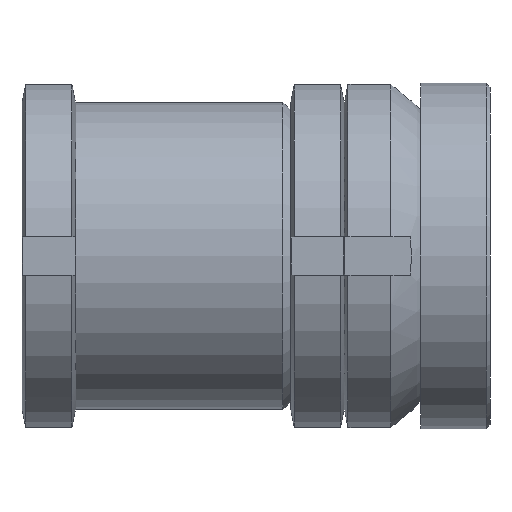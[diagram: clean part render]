
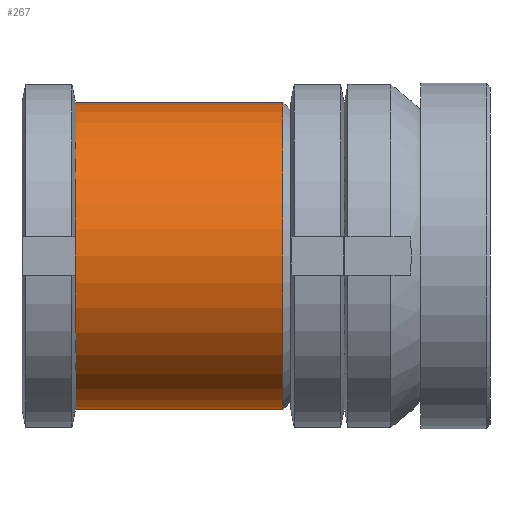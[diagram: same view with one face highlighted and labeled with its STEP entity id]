
A CAD part, front view. The second image highlights one B-rep face of the part: STEP entity #267.
In plain terms, the highlighted cylindrical face has radius 20 mm (diameter 40 mm), a full revolution.
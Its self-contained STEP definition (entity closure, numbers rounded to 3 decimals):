
#267 = ADVANCED_FACE( '', ( #386, #387 ), #388, .T. );
#386 = FACE_OUTER_BOUND( '', #594, .T. );
#387 = FACE_OUTER_BOUND( '', #595, .T. );
#388 = CYLINDRICAL_SURFACE( '', #596, 20. );
#594 = EDGE_LOOP( '', ( #927 ) );
#595 = EDGE_LOOP( '', ( #928 ) );
#596 = AXIS2_PLACEMENT_3D( '', #929, #930, #931 );
#927 = ORIENTED_EDGE( '', *, *, #1375, .F. );
#928 = ORIENTED_EDGE( '', *, *, #1409, .T. );
#929 = CARTESIAN_POINT( '', ( 0., 0., 0. ) );
#930 = DIRECTION( '', ( 0., 1., 0. ) );
#931 = DIRECTION( '', ( 0., 0., -1. ) );
#1375 = EDGE_CURVE( '', #1571, #1571, #1572, .T. );
#1409 = EDGE_CURVE( '', #1624, #1624, #1625, .T. );
#1571 = VERTEX_POINT( '', #1947 );
#1572 = CIRCLE( '', #1948, 20. );
#1624 = VERTEX_POINT( '', #2068 );
#1625 = CIRCLE( '', #2069, 20. );
#1947 = CARTESIAN_POINT( '', ( 0., 7., -20. ) );
#1948 = AXIS2_PLACEMENT_3D( '', #2512, #2513, #2514 );
#2068 = CARTESIAN_POINT( '', ( 0., 34., -20. ) );
#2069 = AXIS2_PLACEMENT_3D( '', #2553, #2554, #2555 );
#2512 = CARTESIAN_POINT( '', ( 0., 7., 0. ) );
#2513 = DIRECTION( '', ( 0., -1., 0. ) );
#2514 = DIRECTION( '', ( 0., 0., -1. ) );
#2553 = CARTESIAN_POINT( '', ( 0., 34., 0. ) );
#2554 = DIRECTION( '', ( 0., -1., 0. ) );
#2555 = DIRECTION( '', ( 0., 0., -1. ) );
